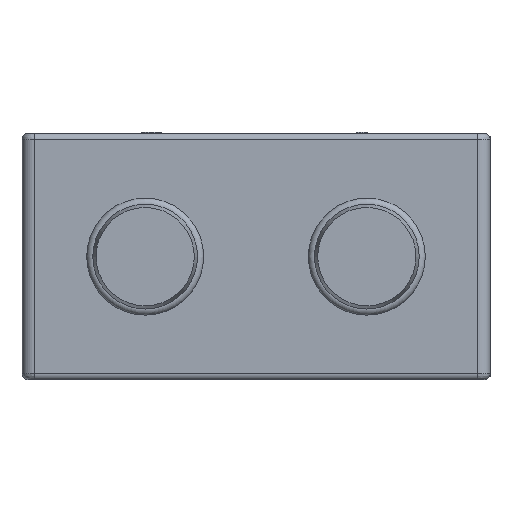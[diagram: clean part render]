
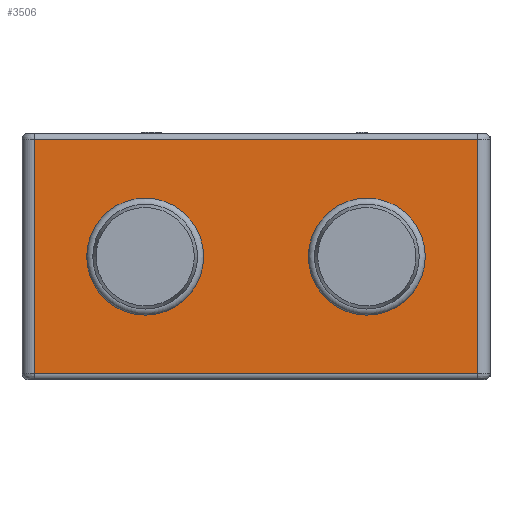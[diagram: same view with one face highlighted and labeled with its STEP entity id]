
A CAD part, left-side view. The second image highlights one B-rep face of the part: STEP entity #3506.
In plain terms, the highlighted planar face has unit normal (-1, 0, 0).
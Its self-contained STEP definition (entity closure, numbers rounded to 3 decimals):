
#113=FACE_BOUND('',#683,.T.);
#114=FACE_BOUND('',#684,.T.);
#189=PLANE('',#3881);
#413=FACE_OUTER_BOUND('',#682,.T.);
#682=EDGE_LOOP('',(#2998,#2999,#3000,#3001));
#683=EDGE_LOOP('',(#3002));
#684=EDGE_LOOP('',(#3003));
#869=LINE('',#5903,#1102);
#873=LINE('',#5945,#1106);
#919=LINE('',#6142,#1152);
#920=LINE('',#6144,#1153);
#1102=VECTOR('',#4558,10.);
#1106=VECTOR('',#4588,10.);
#1152=VECTOR('',#4836,10.);
#1153=VECTOR('',#4839,10.);
#1226=CIRCLE('',#3649,4.75);
#1238=CIRCLE('',#3673,4.75);
#1454=VERTEX_POINT('',#5277);
#1466=VERTEX_POINT('',#5313);
#1631=VERTEX_POINT('',#5897);
#1632=VERTEX_POINT('',#5901);
#1638=VERTEX_POINT('',#5939);
#1639=VERTEX_POINT('',#5943);
#1801=EDGE_CURVE('',#1454,#1454,#1226,.T.);
#1813=EDGE_CURVE('',#1466,#1466,#1238,.T.);
#2027=EDGE_CURVE('',#1631,#1632,#869,.T.);
#2040=EDGE_CURVE('',#1639,#1638,#873,.T.);
#2128=EDGE_CURVE('',#1631,#1638,#919,.T.);
#2129=EDGE_CURVE('',#1632,#1639,#920,.T.);
#2998=ORIENTED_EDGE('',*,*,#2027,.F.);
#2999=ORIENTED_EDGE('',*,*,#2128,.T.);
#3000=ORIENTED_EDGE('',*,*,#2040,.F.);
#3001=ORIENTED_EDGE('',*,*,#2129,.F.);
#3002=ORIENTED_EDGE('',*,*,#1801,.T.);
#3003=ORIENTED_EDGE('',*,*,#1813,.T.);
#3506=ADVANCED_FACE('',(#413,#113,#114),#189,.T.);
#3649=AXIS2_PLACEMENT_3D('',#5278,#4178,#4179);
#3673=AXIS2_PLACEMENT_3D('',#5314,#4226,#4227);
#3881=AXIS2_PLACEMENT_3D('',#6143,#4837,#4838);
#4178=DIRECTION('center_axis',(1.,0.,0.));
#4179=DIRECTION('ref_axis',(0.,-1.,0.));
#4226=DIRECTION('center_axis',(1.,0.,0.));
#4227=DIRECTION('ref_axis',(0.,-1.,0.));
#4558=DIRECTION('',(0.,1.,0.));
#4588=DIRECTION('',(0.,-1.,0.));
#4836=DIRECTION('',(0.,0.,1.));
#4837=DIRECTION('center_axis',(-1.,0.,0.));
#4838=DIRECTION('ref_axis',(0.,0.,1.));
#4839=DIRECTION('',(0.,0.,1.));
#5277=CARTESIAN_POINT('',(-23.,4.25,0.));
#5278=CARTESIAN_POINT('Origin',(-23.,9.,0.));
#5313=CARTESIAN_POINT('',(-23.,-13.75,0.));
#5314=CARTESIAN_POINT('Origin',(-23.,-9.,0.));
#5897=CARTESIAN_POINT('',(-23.,-18.,-9.5));
#5901=CARTESIAN_POINT('',(-23.,18.,-9.5));
#5903=CARTESIAN_POINT('',(-23.,-9.,-9.5));
#5939=CARTESIAN_POINT('',(-23.,-18.,9.5));
#5943=CARTESIAN_POINT('',(-23.,18.,9.5));
#5945=CARTESIAN_POINT('',(-23.,-9.,9.5));
#6142=CARTESIAN_POINT('',(-23.,-18.,-10.));
#6143=CARTESIAN_POINT('Origin',(-23.,-18.,-10.));
#6144=CARTESIAN_POINT('',(-23.,18.,-10.));
